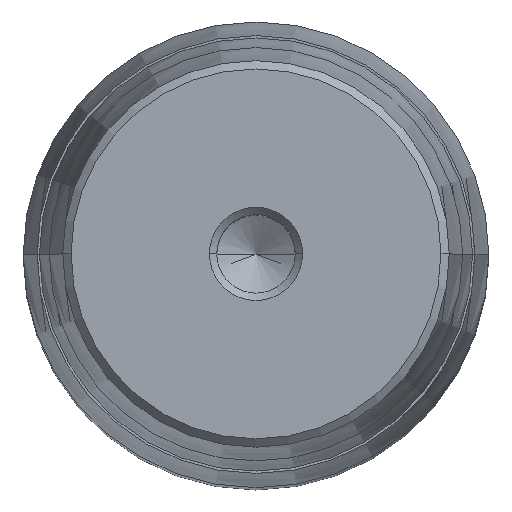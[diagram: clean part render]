
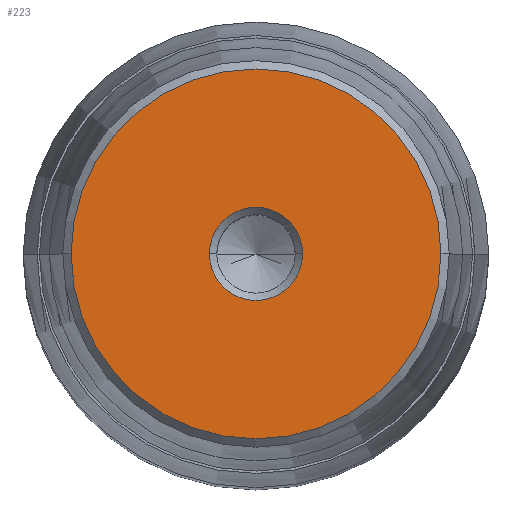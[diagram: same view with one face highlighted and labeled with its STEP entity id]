
A CAD part, top view. The second image highlights one B-rep face of the part: STEP entity #223.
In plain terms, the highlighted planar face has unit normal (0, 0, 1).
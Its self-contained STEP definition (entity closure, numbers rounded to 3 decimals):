
#148=CARTESIAN_POINT('Axis2P3D Location',(0.,0.,69.)) ;
#152=CARTESIAN_POINT('Vertex',(-6.,0.,69.)) ;
#154=CARTESIAN_POINT('Vertex',(6.,0.,69.)) ;
#191=CARTESIAN_POINT('Axis2P3D Location',(0.,6.,69.)) ;
#196=CARTESIAN_POINT('Axis2P3D Location',(0.,0.,69.)) ;
#200=CARTESIAN_POINT('Vertex',(-23.825,0.,69.)) ;
#202=CARTESIAN_POINT('Vertex',(23.825,0.,69.)) ;
#205=CARTESIAN_POINT('Axis2P3D Location',(0.,0.,69.)) ;
#214=CARTESIAN_POINT('Axis2P3D Location',(0.,0.,69.)) ;
#149=DIRECTION('Axis2P3D Direction',(0.,-0.,1.)) ;
#192=DIRECTION('Axis2P3D Direction',(0.,0.,-1.)) ;
#193=DIRECTION('Axis2P3D XDirection',(-1.,0.,0.)) ;
#197=DIRECTION('Axis2P3D Direction',(0.,0.,-1.)) ;
#206=DIRECTION('Axis2P3D Direction',(0.,0.,-1.)) ;
#215=DIRECTION('Axis2P3D Direction',(0.,0.,-1.)) ;
#150=AXIS2_PLACEMENT_3D('Circle Axis2P3D',#148,#149,$) ;
#194=AXIS2_PLACEMENT_3D('Plane Axis2P3D',#191,#192,#193) ;
#198=AXIS2_PLACEMENT_3D('Circle Axis2P3D',#196,#197,$) ;
#207=AXIS2_PLACEMENT_3D('Circle Axis2P3D',#205,#206,$) ;
#216=AXIS2_PLACEMENT_3D('Circle Axis2P3D',#214,#215,$) ;
#211=ORIENTED_EDGE('',*,*,#204,.F.) ;
#212=ORIENTED_EDGE('',*,*,#209,.F.) ;
#220=ORIENTED_EDGE('',*,*,#218,.T.) ;
#221=ORIENTED_EDGE('',*,*,#156,.T.) ;
#222=FACE_BOUND('',#219,.T.) ;
#223=ADVANCED_FACE('722-60x200x251',(#213,#222),#195,.F.) ;
#151=CIRCLE('generated circle',#150,6.) ;
#199=CIRCLE('generated circle',#198,23.825) ;
#208=CIRCLE('generated circle',#207,23.825) ;
#217=CIRCLE('generated circle',#216,6.) ;
#156=EDGE_CURVE('',#153,#155,#151,.F.) ;
#204=EDGE_CURVE('',#201,#203,#199,.T.) ;
#209=EDGE_CURVE('',#203,#201,#208,.T.) ;
#218=EDGE_CURVE('',#155,#153,#217,.T.) ;
#210=EDGE_LOOP('',(#211,#212)) ;
#219=EDGE_LOOP('',(#220,#221)) ;
#213=FACE_OUTER_BOUND('',#210,.T.) ;
#195=PLANE('Plane',#194) ;
#153=VERTEX_POINT('',#152) ;
#155=VERTEX_POINT('',#154) ;
#201=VERTEX_POINT('',#200) ;
#203=VERTEX_POINT('',#202) ;
